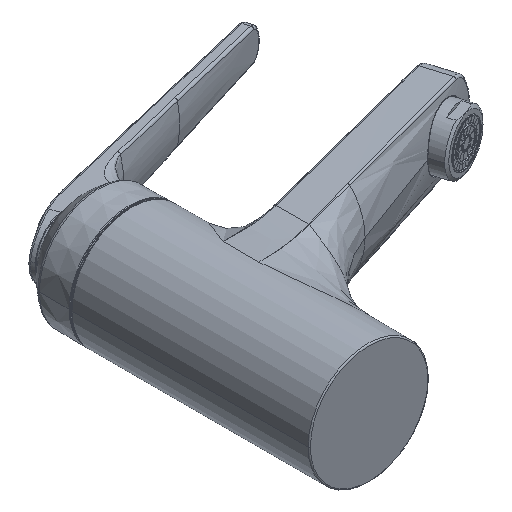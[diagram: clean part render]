
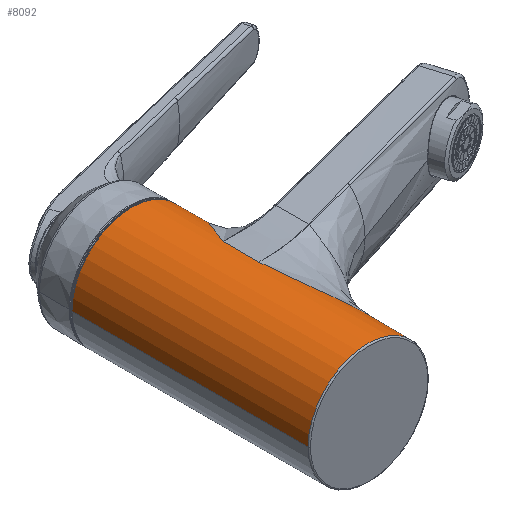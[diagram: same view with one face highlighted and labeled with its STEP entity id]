
A CAD part, isometric view. The second image highlights one B-rep face of the part: STEP entity #8092.
In plain terms, the highlighted cylindrical face has radius 25 mm (diameter 50 mm), a partial arc.
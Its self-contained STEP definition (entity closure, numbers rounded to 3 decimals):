
#2042=CARTESIAN_POINT('',(0.,0.5,0.));
#2043=DIRECTION('',(0.,-1.,0.));
#2044=DIRECTION('',(1.,0.,0.));
#2045=AXIS2_PLACEMENT_3D('',#2042,#2043,#2044);
#2047=DIRECTION('',(0.,-1.,0.));
#2048=VECTOR('',#2047,98.5);
#2049=CARTESIAN_POINT('',(-25.,99.,0.));
#2050=LINE('',#2049,#2048);
#2051=CARTESIAN_POINT('',(0.,99.,0.));
#2052=DIRECTION('',(0.,1.,0.));
#2053=DIRECTION('',(-1.,0.,0.));
#2054=AXIS2_PLACEMENT_3D('',#2051,#2052,#2053);
#2056=DIRECTION('',(0.,-1.,0.));
#2057=VECTOR('',#2056,5.563);
#2058=CARTESIAN_POINT('',(25.,99.,0.));
#2059=LINE('',#2058,#2057);
#2060=CARTESIAN_POINT('',(25.,93.437,0.));
#2061=CARTESIAN_POINT('',(25.,93.437,0.3));
#2062=CARTESIAN_POINT('',(24.989,93.428,0.899));
#2063=CARTESIAN_POINT('',(24.941,93.387,1.792));
#2064=CARTESIAN_POINT('',(24.861,93.317,2.68));
#2065=CARTESIAN_POINT('',(24.75,93.218,3.563));
#2066=CARTESIAN_POINT('',(24.608,93.088,4.439));
#2067=CARTESIAN_POINT('',(24.435,92.927,5.307));
#2068=CARTESIAN_POINT('',(24.233,92.735,6.168));
#2069=CARTESIAN_POINT('',(24.,92.51,7.02));
#2070=CARTESIAN_POINT('',(23.737,92.253,7.862));
#2071=CARTESIAN_POINT('',(23.446,91.963,8.692));
#2072=CARTESIAN_POINT('',(23.126,91.64,9.511));
#2073=CARTESIAN_POINT('',(22.778,91.283,10.315));
#2074=CARTESIAN_POINT('',(22.404,90.891,11.105));
#2075=CARTESIAN_POINT('',(22.002,90.461,11.881));
#2076=CARTESIAN_POINT('',(21.573,89.99,12.643));
#2077=CARTESIAN_POINT('',(21.116,89.477,13.393));
#2078=CARTESIAN_POINT('',(20.631,88.918,14.129));
#2079=CARTESIAN_POINT('',(20.115,88.308,14.854));
#2080=CARTESIAN_POINT('',(19.568,87.644,15.569));
#2081=CARTESIAN_POINT('',(18.987,86.922,16.272));
#2082=CARTESIAN_POINT('',(18.372,86.139,16.963));
#2083=CARTESIAN_POINT('',(17.725,85.291,17.639));
#2084=CARTESIAN_POINT('',(17.046,84.376,18.296));
#2085=CARTESIAN_POINT('',(16.338,83.392,18.93));
#2086=CARTESIAN_POINT('',(15.6,82.33,19.544));
#2087=CARTESIAN_POINT('',(14.829,81.183,20.135));
#2088=CARTESIAN_POINT('',(14.024,79.941,20.704));
#2089=CARTESIAN_POINT('',(13.187,78.598,21.247));
#2090=CARTESIAN_POINT('',(12.326,77.161,21.758));
#2091=CARTESIAN_POINT('',(11.45,75.64,22.231));
#2092=CARTESIAN_POINT('',(10.568,74.041,22.664));
#2093=CARTESIAN_POINT('',(9.686,72.375,23.054));
#2094=CARTESIAN_POINT('',(8.813,70.652,23.401));
#2095=CARTESIAN_POINT('',(8.243,69.473,23.604));
#2096=CARTESIAN_POINT('',(7.959,68.875,23.699));
#2098=DIRECTION('',(0.,-1.,0.));
#2099=VECTOR('',#2098,14.919);
#2100=CARTESIAN_POINT('',(7.96,68.877,23.699));
#2101=LINE('',#2100,#2099);
#2102=CARTESIAN_POINT('',(7.959,53.958,23.699));
#2103=CARTESIAN_POINT('',(8.044,53.216,23.671));
#2104=CARTESIAN_POINT('',(8.224,51.752,23.609));
#2105=CARTESIAN_POINT('',(8.517,49.614,23.505));
#2106=CARTESIAN_POINT('',(8.835,47.53,23.388));
#2107=CARTESIAN_POINT('',(9.177,45.497,23.256));
#2108=CARTESIAN_POINT('',(9.544,43.513,23.108));
#2109=CARTESIAN_POINT('',(9.936,41.576,22.942));
#2110=CARTESIAN_POINT('',(10.352,39.683,22.758));
#2111=CARTESIAN_POINT('',(10.794,37.832,22.552));
#2112=CARTESIAN_POINT('',(11.261,36.02,22.322));
#2113=CARTESIAN_POINT('',(11.753,34.244,22.067));
#2114=CARTESIAN_POINT('',(12.276,32.506,21.782));
#2115=CARTESIAN_POINT('',(12.83,30.801,21.46));
#2116=CARTESIAN_POINT('',(13.41,29.143,21.103));
#2117=CARTESIAN_POINT('',(14.011,27.55,20.709));
#2118=CARTESIAN_POINT('',(14.622,26.035,20.282));
#2119=CARTESIAN_POINT('',(15.239,24.612,19.824));
#2120=CARTESIAN_POINT('',(15.851,23.286,19.338));
#2121=CARTESIAN_POINT('',(16.45,22.064,18.831));
#2122=CARTESIAN_POINT('',(17.028,20.947,18.31));
#2123=CARTESIAN_POINT('',(17.585,19.925,17.775));
#2124=CARTESIAN_POINT('',(18.124,18.988,17.225));
#2125=CARTESIAN_POINT('',(18.646,18.125,16.659));
#2126=CARTESIAN_POINT('',(19.15,17.327,16.077));
#2127=CARTESIAN_POINT('',(19.637,16.589,15.479));
#2128=CARTESIAN_POINT('',(20.106,15.904,14.864));
#2129=CARTESIAN_POINT('',(20.559,15.269,14.231));
#2130=CARTESIAN_POINT('',(20.996,14.681,13.579));
#2131=CARTESIAN_POINT('',(21.414,14.139,12.91));
#2132=CARTESIAN_POINT('',(21.812,13.642,12.225));
#2133=CARTESIAN_POINT('',(22.189,13.187,11.526));
#2134=CARTESIAN_POINT('',(22.546,12.768,10.812));
#2135=CARTESIAN_POINT('',(22.882,12.386,10.082));
#2136=CARTESIAN_POINT('',(23.196,12.039,9.335));
#2137=CARTESIAN_POINT('',(23.49,11.725,8.57));
#2138=CARTESIAN_POINT('',(23.762,11.445,7.785));
#2139=CARTESIAN_POINT('',(24.011,11.196,6.981));
#2140=CARTESIAN_POINT('',(24.235,10.978,6.157));
#2141=CARTESIAN_POINT('',(24.434,10.788,5.314));
#2142=CARTESIAN_POINT('',(24.605,10.627,4.455));
#2143=CARTESIAN_POINT('',(24.747,10.497,3.582));
#2144=CARTESIAN_POINT('',(24.86,10.398,2.696));
#2145=CARTESIAN_POINT('',(24.94,10.329,1.803));
#2146=CARTESIAN_POINT('',(24.989,10.289,0.903));
#2147=CARTESIAN_POINT('',(25.,10.281,0.301));
#2148=CARTESIAN_POINT('',(25.,10.281,0.));
#2150=DIRECTION('',(0.,-1.,0.));
#2151=VECTOR('',#2150,9.781);
#2152=CARTESIAN_POINT('',(25.,10.281,0.));
#2153=LINE('',#2152,#2151);
#2801=CARTESIAN_POINT('',(7.96,68.877,23.699));
#2821=CARTESIAN_POINT('',(25.,93.437,0.));
#2845=CARTESIAN_POINT('',(7.959,53.958,23.699));
#2914=CARTESIAN_POINT('',(25.,10.281,0.));
#4131=VERTEX_POINT('',#2821);
#4139=VERTEX_POINT('',#2914);
#4163=VERTEX_POINT('',#2801);
#4187=VERTEX_POINT('',#2845);
#4192=CARTESIAN_POINT('',(-25.,0.5,0.));
#4193=CARTESIAN_POINT('',(25.,0.5,0.));
#4194=VERTEX_POINT('',#4192);
#4195=VERTEX_POINT('',#4193);
#4200=CARTESIAN_POINT('',(25.,99.,0.));
#4201=CARTESIAN_POINT('',(-25.,99.,0.));
#4202=VERTEX_POINT('',#4200);
#4203=VERTEX_POINT('',#4201);
#8070=CARTESIAN_POINT('',(0.,115.489,0.));
#8071=DIRECTION('',(0.,1.,0.));
#8072=DIRECTION('',(-1.,0.,0.));
#8073=AXIS2_PLACEMENT_3D('',#8070,#8071,#8072);
#8074=CYLINDRICAL_SURFACE('',#8073,25.);
#8076=ORIENTED_EDGE('',*,*,#8075,.T.);
#8078=ORIENTED_EDGE('',*,*,#8077,.F.);
#8079=ORIENTED_EDGE('',*,*,#8052,.T.);
#8081=ORIENTED_EDGE('',*,*,#8080,.T.);
#8083=ORIENTED_EDGE('',*,*,#8082,.T.);
#8085=ORIENTED_EDGE('',*,*,#8084,.T.);
#8087=ORIENTED_EDGE('',*,*,#8086,.T.);
#8089=ORIENTED_EDGE('',*,*,#8088,.T.);
#8090=EDGE_LOOP('',(#8076,#8078,#8079,#8081,#8083,#8085,#8087,#8089));
#8091=FACE_OUTER_BOUND('',#8090,.F.);
#2046=CIRCLE('',#2045,25.);
#2055=CIRCLE('',#2054,25.);
#2097=B_SPLINE_CURVE_WITH_KNOTS('',3,(#2060,#2061,#2062,#2063,#2064,#2065,#2066,
#2067,#2068,#2069,#2070,#2071,#2072,#2073,#2074,#2075,#2076,#2077,#2078,#2079,
#2080,#2081,#2082,#2083,#2084,#2085,#2086,#2087,#2088,#2089,#2090,#2091,#2092,
#2093,#2094,#2095,#2096),.UNSPECIFIED.,.F.,.F.,(4,1,1,1,1,1,1,1,1,1,1,1,1,1,1,1,
1,1,1,1,1,1,1,1,1,1,1,1,1,1,1,1,1,1,4),(0.,0.029,
0.059,0.088,0.118,0.147,
0.176,0.206,0.235,0.265,
0.294,0.324,0.353,0.382,
0.412,0.441,0.471,0.5,0.529,
0.559,0.588,0.618,0.647,
0.676,0.706,0.735,0.765,
0.794,0.824,0.853,0.882,
0.912,0.941,0.971,1.),.UNSPECIFIED.);
#2149=B_SPLINE_CURVE_WITH_KNOTS('',3,(#2102,#2103,#2104,#2105,#2106,#2107,#2108,
#2109,#2110,#2111,#2112,#2113,#2114,#2115,#2116,#2117,#2118,#2119,#2120,#2121,
#2122,#2123,#2124,#2125,#2126,#2127,#2128,#2129,#2130,#2131,#2132,#2133,#2134,
#2135,#2136,#2137,#2138,#2139,#2140,#2141,#2142,#2143,#2144,#2145,#2146,#2147,
#2148),.UNSPECIFIED.,.F.,.F.,(4,1,1,1,1,1,1,1,1,1,1,1,1,1,1,1,1,1,1,1,1,1,1,1,1,
1,1,1,1,1,1,1,1,1,1,1,1,1,1,1,1,1,1,1,4),(0.,0.023,
0.045,0.068,0.091,0.114,
0.136,0.159,0.182,0.205,
0.227,0.25,0.273,0.295,0.318,
0.341,0.364,0.386,0.409,
0.432,0.455,0.477,0.5,0.523,
0.545,0.568,0.591,0.614,
0.636,0.659,0.682,0.705,
0.727,0.75,0.773,0.795,0.818,
0.841,0.864,0.886,0.909,
0.932,0.955,0.977,1.),.UNSPECIFIED.);
#8052=EDGE_CURVE('',#4203,#4202,#2055,.T.);
#8075=EDGE_CURVE('',#4195,#4194,#2046,.T.);
#8077=EDGE_CURVE('',#4203,#4194,#2050,.T.);
#8080=EDGE_CURVE('',#4202,#4131,#2059,.T.);
#8082=EDGE_CURVE('',#4131,#4163,#2097,.T.);
#8084=EDGE_CURVE('',#4163,#4187,#2101,.T.);
#8086=EDGE_CURVE('',#4187,#4139,#2149,.T.);
#8088=EDGE_CURVE('',#4139,#4195,#2153,.T.);
#8092=ADVANCED_FACE('',(#8091),#8074,.T.);
